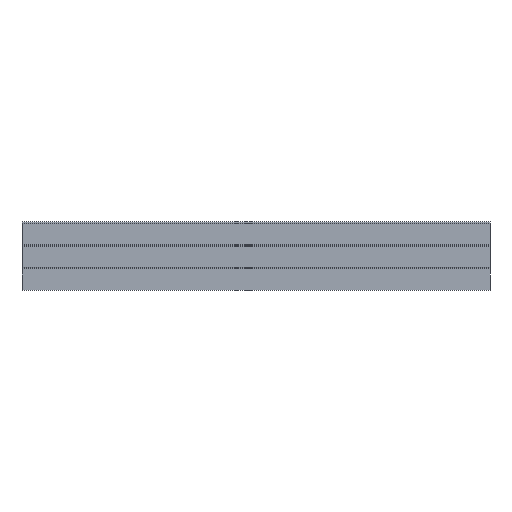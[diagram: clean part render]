
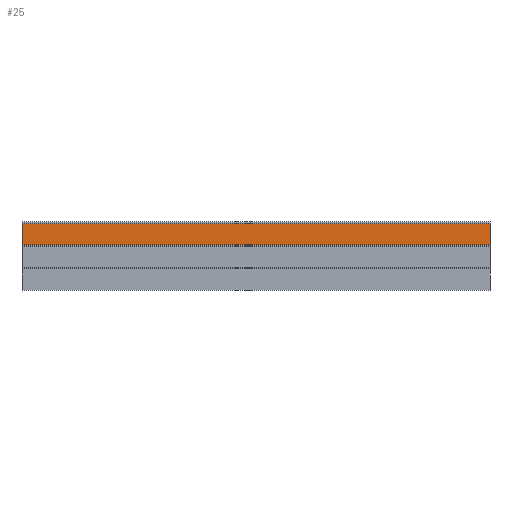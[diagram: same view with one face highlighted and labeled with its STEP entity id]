
A CAD part, top view. The second image highlights one B-rep face of the part: STEP entity #25.
In plain terms, the highlighted planar face has unit normal (0, 0, 1).
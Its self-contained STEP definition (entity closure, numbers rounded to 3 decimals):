
#25=ADVANCED_FACE('',(#49),#407,.T.);
#49=FACE_OUTER_BOUND('',#73,.T.);
#73=EDGE_LOOP('',(#109,#110,#111,#112));
#109=ORIENTED_EDGE('',*,*,#202,.T.);
#110=ORIENTED_EDGE('',*,*,#203,.T.);
#111=ORIENTED_EDGE('',*,*,#204,.F.);
#112=ORIENTED_EDGE('',*,*,#200,.F.);
#200=EDGE_CURVE('',#347,#348,#268,.T.);
#202=EDGE_CURVE('',#347,#349,#307,.T.);
#203=EDGE_CURVE('',#349,#350,#308,.T.);
#204=EDGE_CURVE('',#348,#350,#309,.T.);
#268=(
BOUNDED_CURVE()
B_SPLINE_CURVE(1,(#538,#539),.UNSPECIFIED.,.F.,.F.)
B_SPLINE_CURVE_WITH_KNOTS((2,2),(0.,6200.),.UNSPECIFIED.)
CURVE()
GEOMETRIC_REPRESENTATION_ITEM()
RATIONAL_B_SPLINE_CURVE((1.,1.))
REPRESENTATION_ITEM('')
);
#307=B_SPLINE_CURVE_WITH_KNOTS('',1,(#543,#544),.UNSPECIFIED.,.F.,.F.,(2,
2),(120.517,400.517),.UNSPECIFIED.);
#308=B_SPLINE_CURVE_WITH_KNOTS('',1,(#545,#546),.UNSPECIFIED.,.F.,.F.,(2,
2),(0.,6200.),.UNSPECIFIED.);
#309=B_SPLINE_CURVE_WITH_KNOTS('',1,(#547,#548),.UNSPECIFIED.,.F.,.F.,(2,
2),(120.517,400.517),.UNSPECIFIED.);
#347=VERTEX_POINT('',#503);
#348=VERTEX_POINT('',#504);
#349=VERTEX_POINT('',#505);
#350=VERTEX_POINT('',#506);
#407=PLANE('',#439);
#439=AXIS2_PLACEMENT_3D('',#481,#454,$);
#454=DIRECTION('',(0.,0.,1.));
#481=CARTESIAN_POINT('',(-3100.,880.218,5.814));
#503=CARTESIAN_POINT('',(-3100.,880.218,5.814));
#504=CARTESIAN_POINT('',(3100.,880.218,5.814));
#505=CARTESIAN_POINT('',(-3100.,600.218,5.814));
#506=CARTESIAN_POINT('',(3100.,600.218,5.814));
#538=CARTESIAN_POINT('',(-3100.,880.218,5.814));
#539=CARTESIAN_POINT('',(3100.,880.218,5.814));
#543=CARTESIAN_POINT('',(-3100.,880.218,5.814));
#544=CARTESIAN_POINT('',(-3100.,600.218,5.814));
#545=CARTESIAN_POINT('',(-3100.,600.218,5.814));
#546=CARTESIAN_POINT('',(3100.,600.218,5.814));
#547=CARTESIAN_POINT('',(3100.,880.218,5.814));
#548=CARTESIAN_POINT('',(3100.,600.218,5.814));
